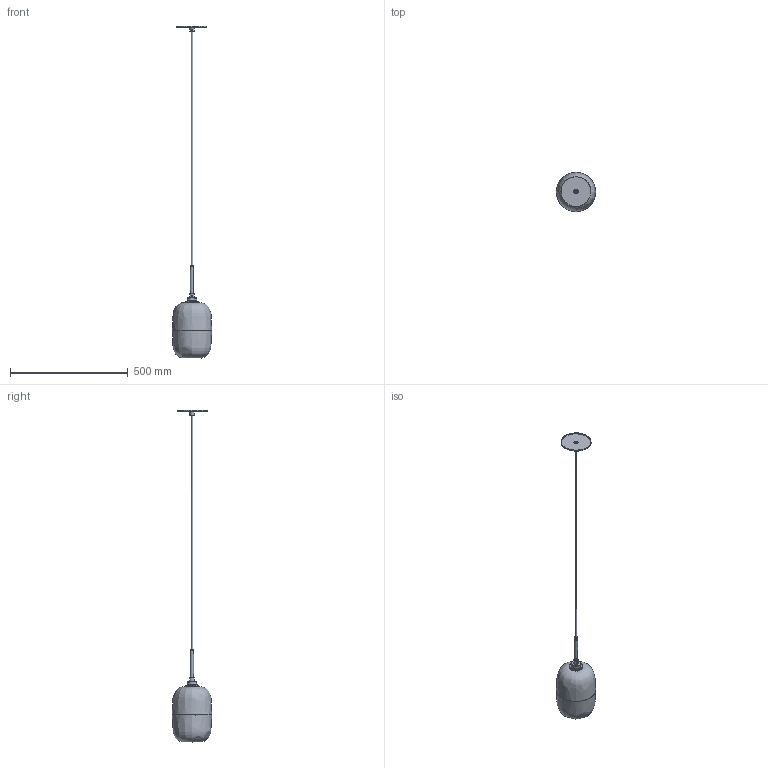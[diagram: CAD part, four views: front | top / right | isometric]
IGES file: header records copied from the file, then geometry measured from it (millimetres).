
Global section: file name: Niche - Haze Pendant; native system: unknown; preprocessor: unknown; author: unknown; organization: unknown; date: 20220622.094200; units: inch
Bounding box: 166.13 x 166.12 x 1406.88 mm (x, y, z)
Volume: 603080.5 mm3; surface area: 372228.4 mm2
Topology: 13 solids, 13 shells, 168 faces, 416 edges, 279 vertices
Faces by surface type: bspline 168
